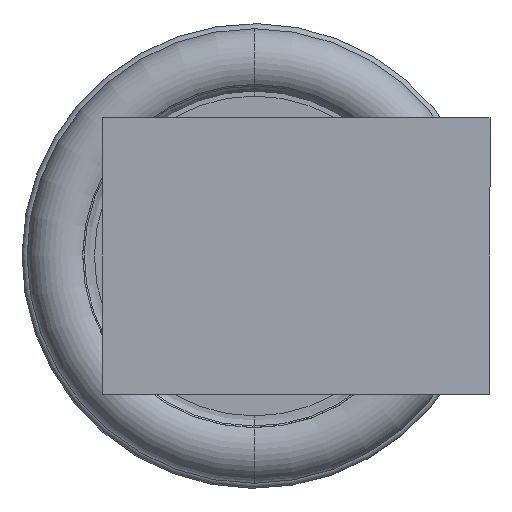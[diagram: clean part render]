
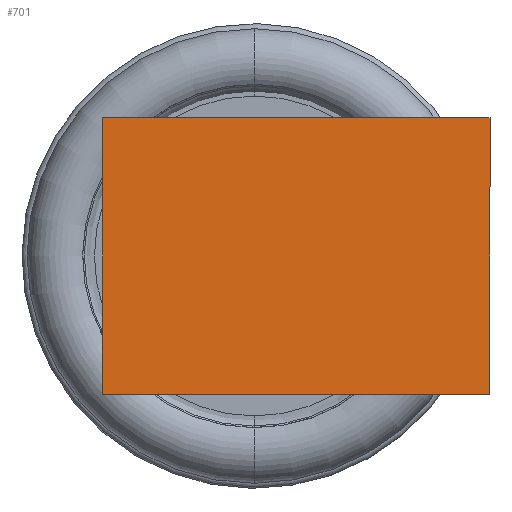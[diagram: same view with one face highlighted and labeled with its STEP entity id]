
A CAD part, left-side view. The second image highlights one B-rep face of the part: STEP entity #701.
In plain terms, the highlighted planar face has unit normal (-1, 0, 0).
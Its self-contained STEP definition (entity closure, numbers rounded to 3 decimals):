
#3 = CARTESIAN_POINT ( 'NONE',  ( -140., -6.999, 0. ) ) ;
#15 = CARTESIAN_POINT ( 'NONE',  ( -140., 0., -4.1 ) ) ;
#68 = VECTOR ( 'NONE', #1889, 1000. ) ;
#75 = VECTOR ( 'NONE', #1241, 1000. ) ;
#461 = DIRECTION ( 'NONE',  ( 0., -1., 0. ) ) ;
#620 = CARTESIAN_POINT ( 'NONE',  ( -140., 0., 4.1 ) ) ;
#689 = DIRECTION ( 'NONE',  ( -1., 0., 0. ) ) ;
#701 = ADVANCED_FACE ( 'NONE', ( #2479 ), #2679, .T. ) ;
#1100 = LINE ( 'NONE', #620, #68 ) ;
#1104 = VECTOR ( 'NONE', #3183, 1000. ) ;
#1174 = EDGE_LOOP ( 'NONE', ( #2089, #2565, #2463, #1916 ) ) ;
#1241 = DIRECTION ( 'NONE',  ( 0., 0., 1. ) ) ;
#1262 = VERTEX_POINT ( 'NONE', #1678 ) ;
#1347 = VERTEX_POINT ( 'NONE', #2383 ) ;
#1393 = AXIS2_PLACEMENT_3D ( 'NONE', #1653, #689, #461 ) ;
#1605 = LINE ( 'NONE', #2202, #1104 ) ;
#1653 = CARTESIAN_POINT ( 'NONE',  ( -140., 0., 0. ) ) ;
#1678 = CARTESIAN_POINT ( 'NONE',  ( -140., 4.5, -4.1 ) ) ;
#1693 = EDGE_CURVE ( 'NONE', #1262, #2837, #2896, .T. ) ;
#1889 = DIRECTION ( 'NONE',  ( 0., -1., 0. ) ) ;
#1916 = ORIENTED_EDGE ( 'NONE', *, *, #2499, .F. ) ;
#1952 = CARTESIAN_POINT ( 'NONE',  ( -140., -6.999, -4.1 ) ) ;
#1983 = DIRECTION ( 'NONE',  ( 0., -1., 0. ) ) ;
#2089 = ORIENTED_EDGE ( 'NONE', *, *, #2164, .F. ) ;
#2164 = EDGE_CURVE ( 'NONE', #1262, #3072, #1605, .T. ) ;
#2202 = CARTESIAN_POINT ( 'NONE',  ( -140., 4.5, -15. ) ) ;
#2383 = CARTESIAN_POINT ( 'NONE',  ( -140., -6.999, 4.1 ) ) ;
#2463 = ORIENTED_EDGE ( 'NONE', *, *, #2926, .T. ) ;
#2479 = FACE_OUTER_BOUND ( 'NONE', #1174, .T. ) ;
#2499 = EDGE_CURVE ( 'NONE', #3072, #1347, #1100, .T. ) ;
#2565 = ORIENTED_EDGE ( 'NONE', *, *, #1693, .T. ) ;
#2679 = PLANE ( 'NONE',  #1393 ) ;
#2837 = VERTEX_POINT ( 'NONE', #1952 ) ;
#2896 = LINE ( 'NONE', #15, #3133 ) ;
#2902 = CARTESIAN_POINT ( 'NONE',  ( -140., 4.5, 4.1 ) ) ;
#2926 = EDGE_CURVE ( 'NONE', #2837, #1347, #3204, .T. ) ;
#3072 = VERTEX_POINT ( 'NONE', #2902 ) ;
#3133 = VECTOR ( 'NONE', #1983, 1000. ) ;
#3183 = DIRECTION ( 'NONE',  ( 0., 0., 1. ) ) ;
#3204 = LINE ( 'NONE', #3, #75 ) ;
